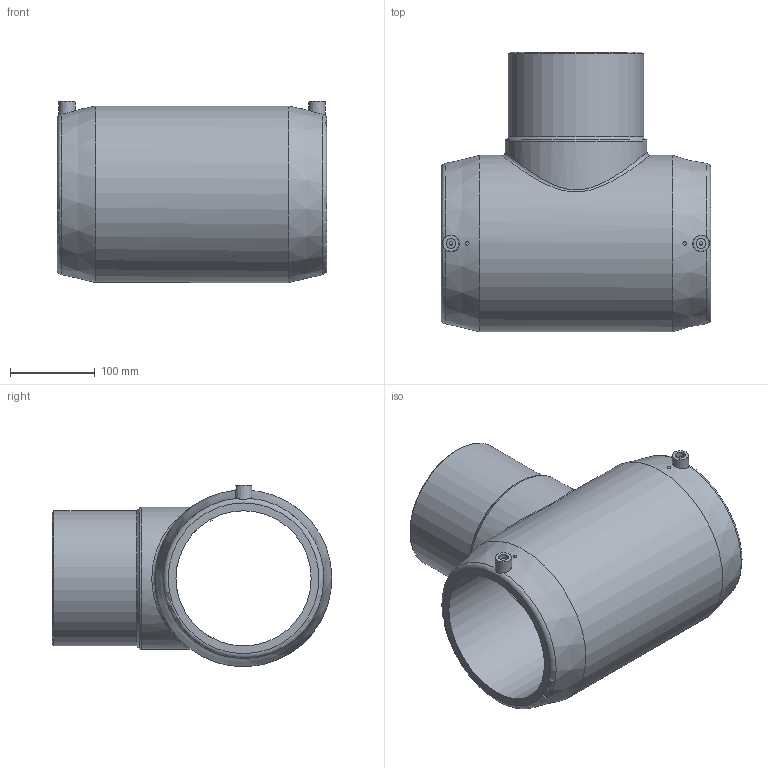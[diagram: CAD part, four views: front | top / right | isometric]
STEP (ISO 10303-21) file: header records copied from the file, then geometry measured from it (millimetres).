
FILE_DESCRIPTION(/* description */ ('Unknown'),/* implementation_level */ '2;1');
FILE_NAME(/* name */ 'TEP160C',/* time_stamp */ '2020-12-10T10:40:53+01:00',/* author */ ('Unknown'),/* organization */ ('Unknown'),/* preprocessor_version */ 'ST-DEVELOPER v16.7',/* originating_system */ 'Solid Edge',/* authorisation */ 'Unknown');
FILE_SCHEMA (('AUTOMOTIVE_DESIGN {1 0 10303 214 3 1 1}'));
Length unit declared in the file: millimetre
Products named in the file (1): TEP160C
Bounding box: 319 x 331 x 214.5 mm (x, y, z)
Volume: 4860131.4 mm3; surface area: 490869.6 mm2
Topology: 1 solids, 1 shells, 37 faces, 85 edges, 57 vertices
Faces by surface type: plane 14, cylinder 11, cone 8, torus 3, bspline 1
Full cylindrical faces by diameter (mm): 4 x4, 11.5 x2, 130.8 x1, 160 x2, 168 x1, 209 x1
Entity records: 1343 total; most frequent: CARTESIAN_POINT 664, DIRECTION 132, ORIENTED_EDGE 94, EDGE_LOOP 70, FACE_BOUND 70, AXIS2_PLACEMENT_3D 61, EDGE_CURVE 47, VERTEX_POINT 41
